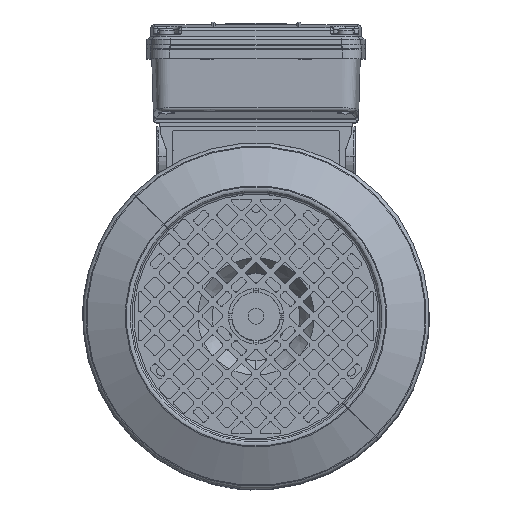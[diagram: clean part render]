
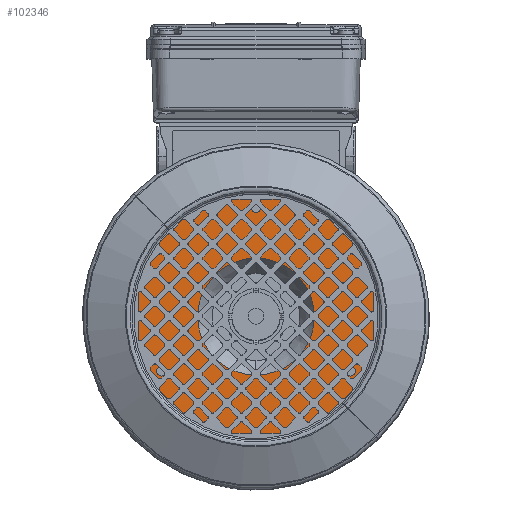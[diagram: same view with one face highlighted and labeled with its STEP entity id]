
A CAD part, top view. The second image highlights one B-rep face of the part: STEP entity #102346.
In plain terms, the highlighted planar face has unit normal (0, 0, 1) as drawn and (0, 1, 0) by its records, which use the part's own axes.
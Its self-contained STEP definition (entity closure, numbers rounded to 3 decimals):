
#1599 = CARTESIAN_POINT ( 'NONE',  ( 0., 36., 0. ) ) ;
#2997 = CARTESIAN_POINT ( 'NONE',  ( 0., 36., 53.5 ) ) ;
#3945 = DIRECTION ( 'NONE',  ( 0., 0., 1. ) ) ;
#5403 = DIRECTION ( 'NONE',  ( 0., 0., 1. ) ) ;
#6165 = VERTEX_POINT ( 'NONE', #7713 ) ;
#6716 = PLANE ( 'NONE',  #72335 ) ;
#6742 = CARTESIAN_POINT ( 'NONE',  ( 0., 36., 58.5 ) ) ;
#6903 = VERTEX_POINT ( 'NONE', #39880 ) ;
#7713 = CARTESIAN_POINT ( 'NONE',  ( -48.497, 36., -25.5 ) ) ;
#8560 = DIRECTION ( 'NONE',  ( 0., 0., 1. ) ) ;
#9573 = DIRECTION ( 'NONE',  ( 0., 1., 0. ) ) ;
#9794 = EDGE_CURVE ( 'NONE', #6165, #69089, #76436, .T. ) ;
#10779 = DIRECTION ( 'NONE',  ( 0., 0., 1. ) ) ;
#13563 = AXIS2_PLACEMENT_3D ( 'NONE', #15161, #79313, #24342 ) ;
#14184 = CARTESIAN_POINT ( 'NONE',  ( 0., 36., -67.5 ) ) ;
#14907 = EDGE_CURVE ( 'NONE', #68724, #35868, #38595, .T. ) ;
#15161 = CARTESIAN_POINT ( 'NONE',  ( 0., 36., 0. ) ) ;
#16273 = CARTESIAN_POINT ( 'NONE',  ( 30., 36., 0. ) ) ;
#16370 = EDGE_CURVE ( 'NONE', #35868, #68724, #65605, .T. ) ;
#17454 = FACE_BOUND ( 'NONE', #21482, .T. ) ;
#21389 = EDGE_CURVE ( 'NONE', #69089, #6165, #110247, .T. ) ;
#21482 = EDGE_LOOP ( 'NONE', ( #88502, #114552 ) ) ;
#22233 = CIRCLE ( 'NONE', #97084, 2.5 ) ;
#22974 = AXIS2_PLACEMENT_3D ( 'NONE', #32457, #96717, #41641 ) ;
#24342 = DIRECTION ( 'NONE',  ( 0., 0., 1. ) ) ;
#25463 = DIRECTION ( 'NONE',  ( 0., 0., -1. ) ) ;
#28996 = AXIS2_PLACEMENT_3D ( 'NONE', #118353, #63448, #8560 ) ;
#29775 = EDGE_LOOP ( 'NONE', ( #64429, #85086 ) ) ;
#30128 = CIRCLE ( 'NONE', #13563, 30. ) ;
#32457 = CARTESIAN_POINT ( 'NONE',  ( -48.497, 36., -28. ) ) ;
#33284 = EDGE_LOOP ( 'NONE', ( #78103, #58894 ) ) ;
#34690 = CIRCLE ( 'NONE', #101401, 67.5 ) ;
#35868 = VERTEX_POINT ( 'NONE', #2997 ) ;
#38595 = CIRCLE ( 'NONE', #110999, 2.5 ) ;
#38911 = FACE_OUTER_BOUND ( 'NONE', #74286, .T. ) ;
#39241 = VERTEX_POINT ( 'NONE', #102191 ) ;
#39880 = CARTESIAN_POINT ( 'NONE',  ( 48.497, 36., -25.5 ) ) ;
#41354 = CIRCLE ( 'NONE', #28996, 2.5 ) ;
#41641 = DIRECTION ( 'NONE',  ( 0., 0., 1. ) ) ;
#46508 = VERTEX_POINT ( 'NONE', #99738 ) ;
#46913 = CARTESIAN_POINT ( 'NONE',  ( 0., 36., 30. ) ) ;
#48814 = CARTESIAN_POINT ( 'NONE',  ( 0., 36., 0. ) ) ;
#49051 = CIRCLE ( 'NONE', #113786, 67.5 ) ;
#49308 = DIRECTION ( 'NONE',  ( 0., 1., 0. ) ) ;
#49923 = DIRECTION ( 'NONE',  ( 0., 1., 0. ) ) ;
#50625 = EDGE_CURVE ( 'NONE', #55197, #46508, #30128, .T. ) ;
#55197 = VERTEX_POINT ( 'NONE', #46913 ) ;
#55760 = EDGE_CURVE ( 'NONE', #6903, #39241, #22233, .T. ) ;
#58059 = DIRECTION ( 'NONE',  ( 0., 0., 1. ) ) ;
#58801 = DIRECTION ( 'NONE',  ( 0., 1., 0. ) ) ;
#58894 = ORIENTED_EDGE ( 'NONE', *, *, #21389, .F. ) ;
#59284 = ORIENTED_EDGE ( 'NONE', *, *, #101995, .T. ) ;
#59845 = VERTEX_POINT ( 'NONE', #14184 ) ;
#60299 = DIRECTION ( 'NONE',  ( 0., 1., 0. ) ) ;
#63361 = FACE_BOUND ( 'NONE', #33284, .T. ) ;
#63448 = DIRECTION ( 'NONE',  ( 0., 1., 0. ) ) ;
#64429 = ORIENTED_EDGE ( 'NONE', *, *, #50625, .F. ) ;
#64463 = CARTESIAN_POINT ( 'NONE',  ( 48.497, 36., -28. ) ) ;
#65605 = CIRCLE ( 'NONE', #88855, 2.5 ) ;
#65704 = DIRECTION ( 'NONE',  ( 0., 1., 0. ) ) ;
#66675 = ORIENTED_EDGE ( 'NONE', *, *, #117698, .T. ) ;
#68724 = VERTEX_POINT ( 'NONE', #6742 ) ;
#69089 = VERTEX_POINT ( 'NONE', #80333 ) ;
#69114 = FACE_BOUND ( 'NONE', #99853, .T. ) ;
#69208 = EDGE_CURVE ( 'NONE', #39241, #6903, #41354, .T. ) ;
#71609 = CARTESIAN_POINT ( 'NONE',  ( 0., 36., 67.5 ) ) ;
#72335 = AXIS2_PLACEMENT_3D ( 'NONE', #16273, #80443, #25463 ) ;
#73712 = DIRECTION ( 'NONE',  ( 0., 0., 1. ) ) ;
#74286 = EDGE_LOOP ( 'NONE', ( #66675, #59284 ) ) ;
#76436 = CIRCLE ( 'NONE', #22974, 2.5 ) ;
#77119 = CIRCLE ( 'NONE', #96469, 30. ) ;
#78103 = ORIENTED_EDGE ( 'NONE', *, *, #9794, .F. ) ;
#78998 = AXIS2_PLACEMENT_3D ( 'NONE', #104959, #49923, #114099 ) ;
#79313 = DIRECTION ( 'NONE',  ( 0., 1., 0. ) ) ;
#80333 = CARTESIAN_POINT ( 'NONE',  ( -48.497, 36., -30.5 ) ) ;
#80443 = DIRECTION ( 'NONE',  ( 0., -1., 0. ) ) ;
#85086 = ORIENTED_EDGE ( 'NONE', *, *, #114065, .F. ) ;
#87774 = FACE_BOUND ( 'NONE', #29775, .T. ) ;
#88502 = ORIENTED_EDGE ( 'NONE', *, *, #14907, .F. ) ;
#88855 = AXIS2_PLACEMENT_3D ( 'NONE', #113734, #58801, #3945 ) ;
#96244 = ORIENTED_EDGE ( 'NONE', *, *, #69208, .F. ) ;
#96469 = AXIS2_PLACEMENT_3D ( 'NONE', #115202, #60299, #5403 ) ;
#96717 = DIRECTION ( 'NONE',  ( 0., 1., 0. ) ) ;
#97084 = AXIS2_PLACEMENT_3D ( 'NONE', #64463, #9573, #73712 ) ;
#99738 = CARTESIAN_POINT ( 'NONE',  ( 0., 36., -30. ) ) ;
#99853 = EDGE_LOOP ( 'NONE', ( #106558, #96244 ) ) ;
#101401 = AXIS2_PLACEMENT_3D ( 'NONE', #48814, #113011, #58059 ) ;
#101995 = EDGE_CURVE ( 'NONE', #59845, #102406, #49051, .T. ) ;
#102191 = CARTESIAN_POINT ( 'NONE',  ( 48.497, 36., -30.5 ) ) ;
#102346 = ADVANCED_FACE ( 'NONE', ( #63361, #69114, #17454, #87774, #38911 ), #6716, .F. ) ;
#102406 = VERTEX_POINT ( 'NONE', #71609 ) ;
#104367 = CARTESIAN_POINT ( 'NONE',  ( 0., 36., 56. ) ) ;
#104959 = CARTESIAN_POINT ( 'NONE',  ( -48.497, 36., -28. ) ) ;
#106558 = ORIENTED_EDGE ( 'NONE', *, *, #55760, .F. ) ;
#110247 = CIRCLE ( 'NONE', #78998, 2.5 ) ;
#110999 = AXIS2_PLACEMENT_3D ( 'NONE', #104367, #49308, #113494 ) ;
#113011 = DIRECTION ( 'NONE',  ( 0., 1., 0. ) ) ;
#113494 = DIRECTION ( 'NONE',  ( 0., 0., 1. ) ) ;
#113734 = CARTESIAN_POINT ( 'NONE',  ( 0., 36., 56. ) ) ;
#113786 = AXIS2_PLACEMENT_3D ( 'NONE', #1599, #65704, #10779 ) ;
#114065 = EDGE_CURVE ( 'NONE', #46508, #55197, #77119, .T. ) ;
#114099 = DIRECTION ( 'NONE',  ( 0., 0., 1. ) ) ;
#114552 = ORIENTED_EDGE ( 'NONE', *, *, #16370, .F. ) ;
#115202 = CARTESIAN_POINT ( 'NONE',  ( 0., 36., 0. ) ) ;
#117698 = EDGE_CURVE ( 'NONE', #102406, #59845, #34690, .T. ) ;
#118353 = CARTESIAN_POINT ( 'NONE',  ( 48.497, 36., -28. ) ) ;
